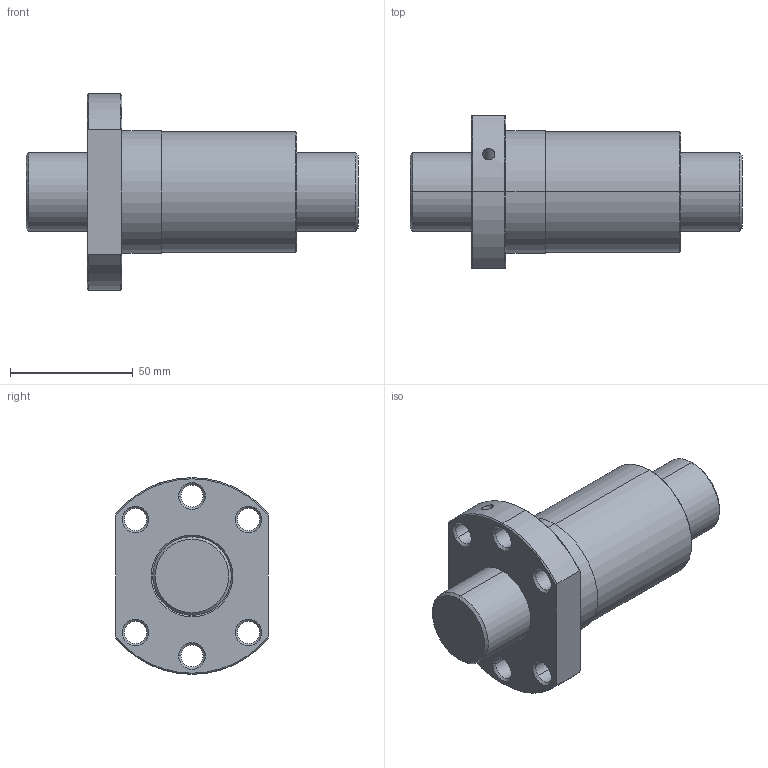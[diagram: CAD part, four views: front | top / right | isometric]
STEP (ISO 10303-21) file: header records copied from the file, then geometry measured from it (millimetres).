
FILE_DESCRIPTION(('no description'),'unknown implementation level');
FILE_NAME('R32_10T4_DEB_135_135_0_023_29.stp',' ',('HIWIN GmbH'),('CADClick - KiM GmbH - www.kimweb.de'),'unknown preprocess','ACIS','unknown authorization');
FILE_SCHEMA(('CONFIG_CONTROL_DESIGN'));
Length unit declared in the file: millimetre
Products named in the file (2): 1; 2
Bounding box: 135 x 62 x 80 mm (x, y, z)
Volume: 231015 mm3; surface area: 46662.7 mm2
Topology: 2 solids, 2 shells, 78 faces, 176 edges, 103 vertices
Faces by surface type: cone 44, cylinder 26, plane 8
Entity records: 2329 total; most frequent: CARTESIAN_POINT 440, DIRECTION 416, ORIENTED_EDGE 348, EDGE_CURVE 174, AXIS2_PLACEMENT_3D 172, VERTEX_POINT 103, EDGE_LOOP 95, CIRCLE 92
